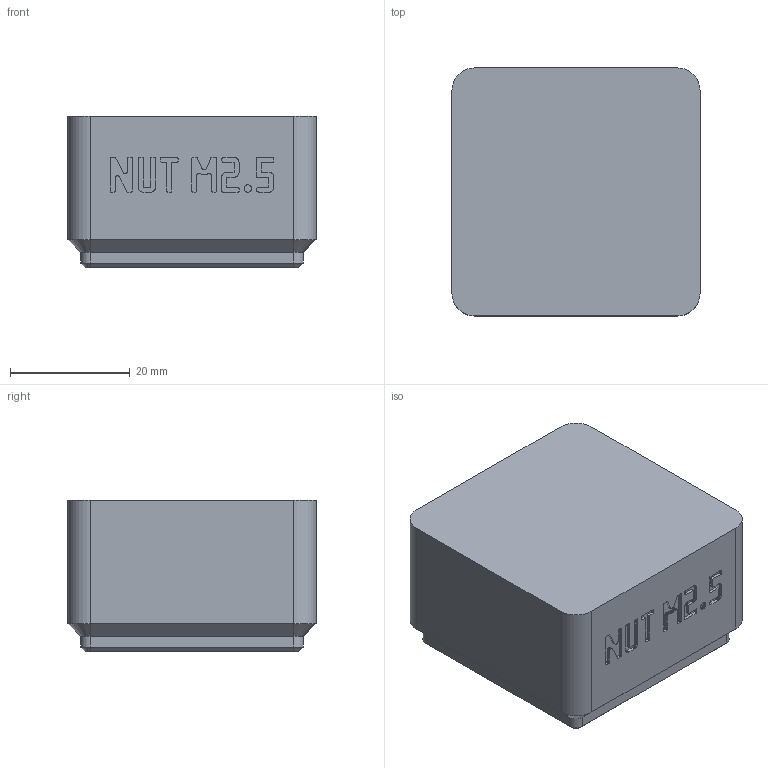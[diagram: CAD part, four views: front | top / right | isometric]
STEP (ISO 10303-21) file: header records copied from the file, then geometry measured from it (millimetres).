
FILE_DESCRIPTION(('Open CASCADE Model'),'2;1');
FILE_NAME('Open CASCADE Shape Model','2026-11-03T16:22:20',('Author'),( 'Open CASCADE'),'Open CASCADE STEP processor 8.0','build123d', 'Unknown');
FILE_SCHEMA(('AUTOMOTIVE_DESIGN { 1 0 10303 214 1 1 1 1 }'));
Products named in the file (1): COMPOUND
Bounding box: 41.5 x 41.5 x 25.4 mm (x, y, z)
Volume: 14663.5 mm3; surface area: 13570.8 mm2
Topology: 1 solids, 2 shells, 1285 faces, 3758 edges, 2492 vertices
Faces by surface type: plane 1249, cylinder 16, cone 12, bspline 8
Entity records: 90462 total; most frequent: CARTESIAN_POINT 15316, DIRECTION 13730, LINE 11070, VECTOR 11070, ORIENTED_EDGE 7516, PCURVE 7516, DEFINITIONAL_REPRESENTATION 7516, EDGE_CURVE 3758
